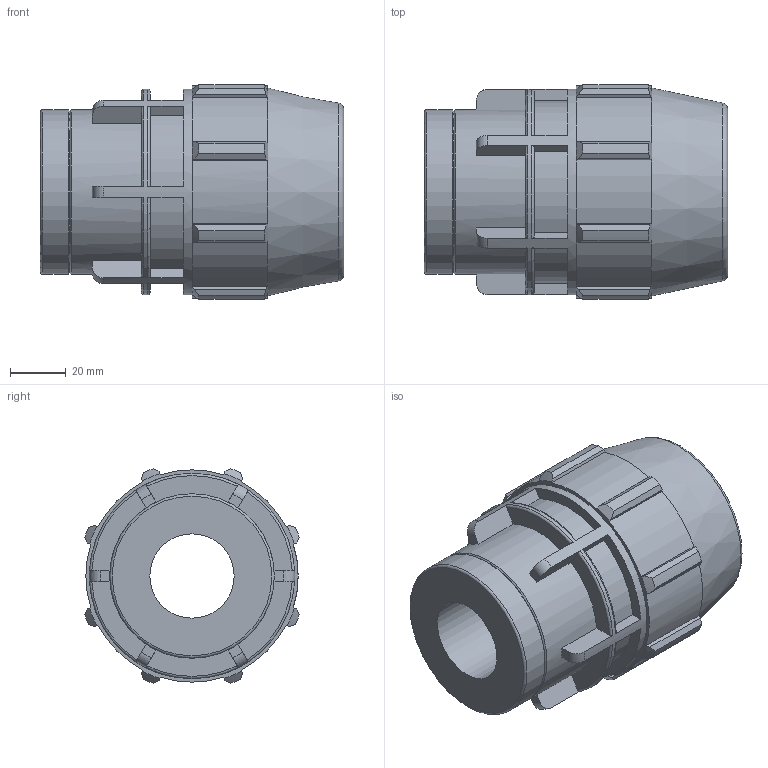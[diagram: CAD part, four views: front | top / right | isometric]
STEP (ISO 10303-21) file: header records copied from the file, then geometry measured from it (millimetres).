
FILE_DESCRIPTION(/* description */ ('PLASSON FEMALE ADAPTOR G 1 1/4'''' - 1''''F'),/* implementation_level */ '2;1');
FILE_NAME(/* name */ 'C:\Dropbox\KIMPROJECTS-Inventor 2019\99-16-3568-Processing Inch\ASTM Compression 2021\0703M0T\0703M0T13010.ipt.stp',/* time_stamp */ '2021-08-26T12:31:00+03:00',/* author */ ('KIM'),/* organization */ (''),/* preprocessor_version */ 'ST-DEVELOPER v17.2',/* originating_system */ 'Autodesk Inventor 2019',/* authorisation */ '');
FILE_SCHEMA (('AUTOMOTIVE_DESIGN { 1 0 10303 214 3 1 1 }'));
Length unit declared in the file: inch
Products named in the file (1): 0703M0T13010
Bounding box: 108.97 x 77.2 x 77.2 mm (x, y, z)
Volume: 260055.7 mm3; surface area: 48257.3 mm2
Topology: 1 solids, 1 shells, 148 faces, 420 edges, 284 vertices
Faces by surface type: plane 86, cylinder 28, torus 20, cone 14
Full cylindrical faces by diameter (mm): 30.291 x1, 39.995 x1, 42.1 x1, 59.07 x2, 73.838 x1
Entity records: 5404 total; most frequent: CARTESIAN_POINT 1337, ORIENTED_EDGE 840, DIRECTION 798, EDGE_CURVE 420, AXIS2_PLACEMENT_3D 297, VERTEX_POINT 284, LINE 204, VECTOR 204
